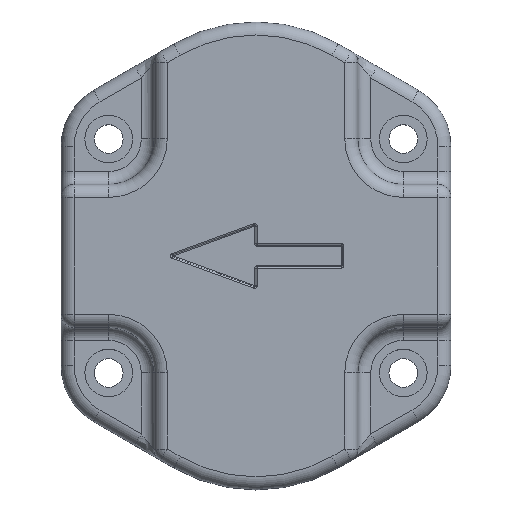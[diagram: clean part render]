
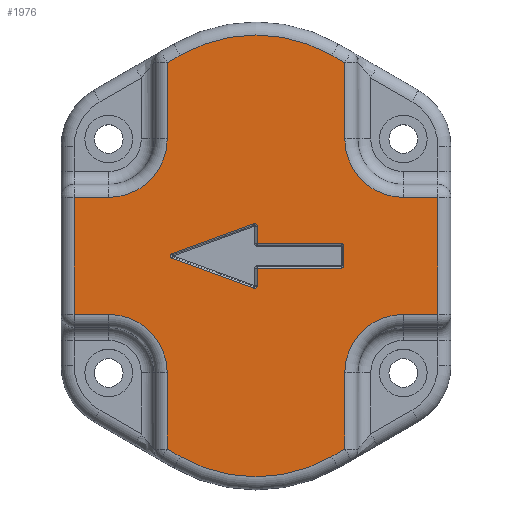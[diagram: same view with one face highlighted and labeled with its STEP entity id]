
A CAD part, top view. The second image highlights one B-rep face of the part: STEP entity #1976.
In plain terms, the highlighted planar face has unit normal (0, 0, 1).
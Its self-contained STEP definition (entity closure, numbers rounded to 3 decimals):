
#27=FACE_BOUND('',#261,.T.);
#42=PLANE('',#2162);
#123=FACE_OUTER_BOUND('',#260,.T.);
#260=EDGE_LOOP('',(#1344,#1345,#1346,#1347,#1348,#1349,#1350,#1351,#1352,
#1353,#1354,#1355,#1356,#1357,#1358,#1359,#1360,#1361,#1362,#1363));
#261=EDGE_LOOP('',(#1364,#1365,#1366,#1367,#1368,#1369,#1370,#1371,#1372,
#1373,#1374,#1375));
#399=LINE('',#3203,#518);
#401=LINE('',#3215,#520);
#403=LINE('',#3236,#522);
#405=LINE('',#3239,#524);
#407=LINE('',#3247,#526);
#409=LINE('',#3259,#528);
#411=LINE('',#3270,#530);
#412=LINE('',#3278,#531);
#413=LINE('',#3280,#532);
#414=LINE('',#3284,#533);
#415=LINE('',#3286,#534);
#416=LINE('',#3290,#535);
#417=LINE('',#3292,#536);
#418=LINE('',#3296,#537);
#419=LINE('',#3298,#538);
#420=LINE('',#3300,#539);
#421=LINE('',#3304,#540);
#422=LINE('',#3306,#541);
#423=LINE('',#3310,#542);
#424=LINE('',#3312,#543);
#425=LINE('',#3315,#544);
#518=VECTOR('',#2448,10.);
#520=VECTOR('',#2462,10.);
#522=VECTOR('',#2486,10.);
#524=VECTOR('',#2490,10.);
#526=VECTOR('',#2498,10.);
#528=VECTOR('',#2512,10.);
#530=VECTOR('',#2526,10.);
#531=VECTOR('',#2537,10.);
#532=VECTOR('',#2538,10.);
#533=VECTOR('',#2541,10.);
#534=VECTOR('',#2542,10.);
#535=VECTOR('',#2545,10.);
#536=VECTOR('',#2546,10.);
#537=VECTOR('',#2549,10.);
#538=VECTOR('',#2550,10.);
#539=VECTOR('',#2551,10.);
#540=VECTOR('',#2554,10.);
#541=VECTOR('',#2555,10.);
#542=VECTOR('',#2558,10.);
#543=VECTOR('',#2559,10.);
#544=VECTOR('',#2562,10.);
#638=CIRCLE('',#2126,0.6);
#642=CIRCLE('',#2132,0.6);
#646=CIRCLE('',#2137,0.6);
#652=CIRCLE('',#2147,0.6);
#656=CIRCLE('',#2153,0.6);
#662=CIRCLE('',#2163,13.5);
#663=CIRCLE('',#2164,35.);
#664=CIRCLE('',#2165,13.5);
#665=CIRCLE('',#2166,13.5);
#666=CIRCLE('',#2167,35.);
#667=CIRCLE('',#2168,13.5);
#812=VERTEX_POINT('',#3196);
#815=VERTEX_POINT('',#3201);
#816=VERTEX_POINT('',#3205);
#818=VERTEX_POINT('',#3211);
#820=VERTEX_POINT('',#3217);
#823=VERTEX_POINT('',#3224);
#824=VERTEX_POINT('',#3226);
#826=VERTEX_POINT('',#3232);
#828=VERTEX_POINT('',#3241);
#831=VERTEX_POINT('',#3249);
#833=VERTEX_POINT('',#3255);
#835=VERTEX_POINT('',#3261);
#838=VERTEX_POINT('',#3276);
#839=VERTEX_POINT('',#3277);
#840=VERTEX_POINT('',#3279);
#841=VERTEX_POINT('',#3281);
#842=VERTEX_POINT('',#3283);
#843=VERTEX_POINT('',#3285);
#844=VERTEX_POINT('',#3287);
#845=VERTEX_POINT('',#3289);
#846=VERTEX_POINT('',#3291);
#847=VERTEX_POINT('',#3293);
#848=VERTEX_POINT('',#3295);
#849=VERTEX_POINT('',#3297);
#850=VERTEX_POINT('',#3299);
#851=VERTEX_POINT('',#3301);
#852=VERTEX_POINT('',#3303);
#853=VERTEX_POINT('',#3305);
#854=VERTEX_POINT('',#3307);
#855=VERTEX_POINT('',#3309);
#856=VERTEX_POINT('',#3311);
#857=VERTEX_POINT('',#3313);
#990=EDGE_CURVE('',#815,#812,#399,.T.);
#991=EDGE_CURVE('',#812,#816,#638,.T.);
#996=EDGE_CURVE('',#816,#818,#401,.T.);
#997=EDGE_CURVE('',#818,#820,#642,.T.);
#1001=EDGE_CURVE('',#823,#824,#646,.T.);
#1006=EDGE_CURVE('',#824,#826,#403,.T.);
#1008=EDGE_CURVE('',#820,#823,#405,.T.);
#1012=EDGE_CURVE('',#826,#828,#407,.T.);
#1013=EDGE_CURVE('',#828,#831,#652,.T.);
#1018=EDGE_CURVE('',#831,#833,#409,.T.);
#1019=EDGE_CURVE('',#833,#835,#656,.T.);
#1024=EDGE_CURVE('',#835,#815,#411,.T.);
#1027=EDGE_CURVE('',#838,#839,#412,.T.);
#1028=EDGE_CURVE('',#840,#838,#413,.T.);
#1029=EDGE_CURVE('',#841,#840,#662,.T.);
#1030=EDGE_CURVE('',#842,#841,#414,.T.);
#1031=EDGE_CURVE('',#843,#842,#415,.T.);
#1032=EDGE_CURVE('',#844,#843,#663,.T.);
#1033=EDGE_CURVE('',#845,#844,#416,.T.);
#1034=EDGE_CURVE('',#846,#845,#417,.T.);
#1035=EDGE_CURVE('',#847,#846,#664,.T.);
#1036=EDGE_CURVE('',#848,#847,#418,.T.);
#1037=EDGE_CURVE('',#849,#848,#419,.T.);
#1038=EDGE_CURVE('',#850,#849,#420,.T.);
#1039=EDGE_CURVE('',#851,#850,#665,.T.);
#1040=EDGE_CURVE('',#852,#851,#421,.T.);
#1041=EDGE_CURVE('',#853,#852,#422,.T.);
#1042=EDGE_CURVE('',#854,#853,#666,.T.);
#1043=EDGE_CURVE('',#855,#854,#423,.T.);
#1044=EDGE_CURVE('',#856,#855,#424,.T.);
#1045=EDGE_CURVE('',#857,#856,#667,.T.);
#1046=EDGE_CURVE('',#839,#857,#425,.T.);
#1344=ORIENTED_EDGE('',*,*,#1027,.F.);
#1345=ORIENTED_EDGE('',*,*,#1028,.F.);
#1346=ORIENTED_EDGE('',*,*,#1029,.F.);
#1347=ORIENTED_EDGE('',*,*,#1030,.F.);
#1348=ORIENTED_EDGE('',*,*,#1031,.F.);
#1349=ORIENTED_EDGE('',*,*,#1032,.F.);
#1350=ORIENTED_EDGE('',*,*,#1033,.F.);
#1351=ORIENTED_EDGE('',*,*,#1034,.F.);
#1352=ORIENTED_EDGE('',*,*,#1035,.F.);
#1353=ORIENTED_EDGE('',*,*,#1036,.F.);
#1354=ORIENTED_EDGE('',*,*,#1037,.F.);
#1355=ORIENTED_EDGE('',*,*,#1038,.F.);
#1356=ORIENTED_EDGE('',*,*,#1039,.F.);
#1357=ORIENTED_EDGE('',*,*,#1040,.F.);
#1358=ORIENTED_EDGE('',*,*,#1041,.F.);
#1359=ORIENTED_EDGE('',*,*,#1042,.F.);
#1360=ORIENTED_EDGE('',*,*,#1043,.F.);
#1361=ORIENTED_EDGE('',*,*,#1044,.F.);
#1362=ORIENTED_EDGE('',*,*,#1045,.F.);
#1363=ORIENTED_EDGE('',*,*,#1046,.F.);
#1364=ORIENTED_EDGE('',*,*,#1001,.F.);
#1365=ORIENTED_EDGE('',*,*,#1008,.F.);
#1366=ORIENTED_EDGE('',*,*,#997,.F.);
#1367=ORIENTED_EDGE('',*,*,#996,.F.);
#1368=ORIENTED_EDGE('',*,*,#991,.F.);
#1369=ORIENTED_EDGE('',*,*,#990,.F.);
#1370=ORIENTED_EDGE('',*,*,#1024,.F.);
#1371=ORIENTED_EDGE('',*,*,#1019,.F.);
#1372=ORIENTED_EDGE('',*,*,#1018,.F.);
#1373=ORIENTED_EDGE('',*,*,#1013,.F.);
#1374=ORIENTED_EDGE('',*,*,#1012,.F.);
#1375=ORIENTED_EDGE('',*,*,#1006,.F.);
#1976=ADVANCED_FACE('',(#123,#27),#42,.T.);
#2126=AXIS2_PLACEMENT_3D('',#3206,#2451,#2452);
#2132=AXIS2_PLACEMENT_3D('',#3218,#2465,#2466);
#2137=AXIS2_PLACEMENT_3D('',#3227,#2475,#2476);
#2147=AXIS2_PLACEMENT_3D('',#3250,#2501,#2502);
#2153=AXIS2_PLACEMENT_3D('',#3262,#2515,#2516);
#2162=AXIS2_PLACEMENT_3D('',#3275,#2535,#2536);
#2163=AXIS2_PLACEMENT_3D('',#3282,#2539,#2540);
#2164=AXIS2_PLACEMENT_3D('',#3288,#2543,#2544);
#2165=AXIS2_PLACEMENT_3D('',#3294,#2547,#2548);
#2166=AXIS2_PLACEMENT_3D('',#3302,#2552,#2553);
#2167=AXIS2_PLACEMENT_3D('',#3308,#2556,#2557);
#2168=AXIS2_PLACEMENT_3D('',#3314,#2560,#2561);
#2448=DIRECTION('',(0.,1.,0.));
#2451=DIRECTION('center_axis',(0.,0.,1.));
#2452=DIRECTION('ref_axis',(0.574,0.819,0.));
#2462=DIRECTION('',(-0.94,-0.342,0.));
#2465=DIRECTION('center_axis',(0.,0.,1.));
#2466=DIRECTION('ref_axis',(-1.,0.,0.));
#2475=DIRECTION('center_axis',(0.,0.,1.));
#2476=DIRECTION('ref_axis',(0.574,-0.819,0.));
#2486=DIRECTION('',(0.,1.,0.));
#2490=DIRECTION('',(0.94,-0.342,0.));
#2498=DIRECTION('',(1.,0.,0.));
#2501=DIRECTION('center_axis',(0.,0.,1.));
#2502=DIRECTION('ref_axis',(0.707,-0.707,0.));
#2512=DIRECTION('',(0.,1.,0.));
#2515=DIRECTION('center_axis',(0.,0.,1.));
#2516=DIRECTION('ref_axis',(0.707,0.707,0.));
#2526=DIRECTION('',(-1.,0.,0.));
#2535=DIRECTION('center_axis',(0.,0.,1.));
#2536=DIRECTION('ref_axis',(1.,0.,0.));
#2537=DIRECTION('',(0.,-1.,0.));
#2538=DIRECTION('',(1.,0.,0.));
#2539=DIRECTION('center_axis',(0.,0.,1.));
#2540=DIRECTION('ref_axis',(-0.707,-0.707,0.));
#2541=DIRECTION('',(0.,-1.,0.));
#2542=DIRECTION('',(0.866,-0.5,0.));
#2543=DIRECTION('center_axis',(0.,0.,-1.));
#2544=DIRECTION('ref_axis',(0.,1.,0.));
#2545=DIRECTION('',(0.866,0.5,0.));
#2546=DIRECTION('',(0.,1.,0.));
#2547=DIRECTION('center_axis',(0.,0.,1.));
#2548=DIRECTION('ref_axis',(0.707,-0.707,0.));
#2549=DIRECTION('',(1.,0.,0.));
#2550=DIRECTION('',(0.,1.,0.));
#2551=DIRECTION('',(-1.,0.,0.));
#2552=DIRECTION('center_axis',(0.,0.,1.));
#2553=DIRECTION('ref_axis',(0.707,0.707,0.));
#2554=DIRECTION('',(0.,1.,0.));
#2555=DIRECTION('',(-0.866,0.5,0.));
#2556=DIRECTION('center_axis',(0.,0.,-1.));
#2557=DIRECTION('ref_axis',(0.,-1.,0.));
#2558=DIRECTION('',(-0.866,-0.5,0.));
#2559=DIRECTION('',(0.,-1.,0.));
#2560=DIRECTION('center_axis',(0.,0.,1.));
#2561=DIRECTION('ref_axis',(-0.707,0.707,0.));
#2562=DIRECTION('',(-1.,0.,0.));
#3196=CARTESIAN_POINT('',(0.3,22.851,21.));
#3201=CARTESIAN_POINT('',(0.3,18.8,21.));
#3203=CARTESIAN_POINT('',(0.3,19.64,21.));
#3205=CARTESIAN_POINT('',(-0.505,23.415,21.));
#3206=CARTESIAN_POINT('Origin',(-0.3,22.851,21.));
#3211=CARTESIAN_POINT('',(-19.328,16.564,21.));
#3215=CARTESIAN_POINT('',(-11.272,19.496,21.));
#3217=CARTESIAN_POINT('',(-19.328,15.436,21.));
#3218=CARTESIAN_POINT('Origin',(-19.123,16.,21.));
#3224=CARTESIAN_POINT('',(-0.505,8.585,21.));
#3226=CARTESIAN_POINT('',(0.3,9.149,21.));
#3227=CARTESIAN_POINT('Origin',(-0.3,9.149,21.));
#3232=CARTESIAN_POINT('',(0.3,13.2,21.));
#3236=CARTESIAN_POINT('',(0.3,14.75,21.));
#3239=CARTESIAN_POINT('',(-1.272,8.864,21.));
#3241=CARTESIAN_POINT('',(19.7,13.2,21.));
#3247=CARTESIAN_POINT('',(10.,13.2,21.));
#3249=CARTESIAN_POINT('',(20.3,13.8,21.));
#3250=CARTESIAN_POINT('Origin',(19.7,13.8,21.));
#3255=CARTESIAN_POINT('',(20.3,18.2,21.));
#3259=CARTESIAN_POINT('',(20.3,17.25,21.));
#3261=CARTESIAN_POINT('',(19.7,18.8,21.));
#3262=CARTESIAN_POINT('Origin',(19.7,18.2,21.));
#3270=CARTESIAN_POINT('',(0.,18.8,21.));
#3275=CARTESIAN_POINT('Origin',(0.,16.,21.));
#3276=CARTESIAN_POINT('',(42.,29.5,21.));
#3277=CARTESIAN_POINT('',(42.,2.5,21.));
#3278=CARTESIAN_POINT('',(42.,-0.949,21.));
#3279=CARTESIAN_POINT('',(34.,29.5,21.));
#3280=CARTESIAN_POINT('',(22.5,29.5,21.));
#3281=CARTESIAN_POINT('',(20.5,43.,21.));
#3282=CARTESIAN_POINT('Origin',(34.,43.,21.));
#3283=CARTESIAN_POINT('',(20.5,60.579,21.));
#3284=CARTESIAN_POINT('',(20.5,29.5,21.));
#3285=CARTESIAN_POINT('',(17.5,62.311,21.));
#3286=CARTESIAN_POINT('',(33.964,52.805,21.));
#3287=CARTESIAN_POINT('',(-17.5,62.311,21.));
#3288=CARTESIAN_POINT('Origin',(0.,32.,21.));
#3289=CARTESIAN_POINT('',(-20.5,60.579,21.));
#3290=CARTESIAN_POINT('',(-20.964,60.311,21.));
#3291=CARTESIAN_POINT('',(-20.5,43.,21.));
#3292=CARTESIAN_POINT('',(-20.5,39.155,21.));
#3293=CARTESIAN_POINT('',(-34.,29.5,21.));
#3294=CARTESIAN_POINT('Origin',(-34.,43.,21.));
#3295=CARTESIAN_POINT('',(-42.,29.5,21.));
#3296=CARTESIAN_POINT('',(-17.,29.5,21.));
#3297=CARTESIAN_POINT('',(-42.,2.5,21.));
#3298=CARTESIAN_POINT('',(-42.,32.949,21.));
#3299=CARTESIAN_POINT('',(-34.,2.5,21.));
#3300=CARTESIAN_POINT('',(-22.5,2.5,21.));
#3301=CARTESIAN_POINT('',(-20.5,-11.,21.));
#3302=CARTESIAN_POINT('Origin',(-34.,-11.,21.));
#3303=CARTESIAN_POINT('',(-20.5,-28.579,21.));
#3304=CARTESIAN_POINT('',(-20.5,2.5,21.));
#3305=CARTESIAN_POINT('',(-17.5,-30.311,21.));
#3306=CARTESIAN_POINT('',(-33.964,-20.805,21.));
#3307=CARTESIAN_POINT('',(17.5,-30.311,21.));
#3308=CARTESIAN_POINT('Origin',(0.,0.,21.));
#3309=CARTESIAN_POINT('',(20.5,-28.579,21.));
#3310=CARTESIAN_POINT('',(20.964,-28.311,21.));
#3311=CARTESIAN_POINT('',(20.5,-11.,21.));
#3312=CARTESIAN_POINT('',(20.5,-7.155,21.));
#3313=CARTESIAN_POINT('',(34.,2.5,21.));
#3314=CARTESIAN_POINT('Origin',(34.,-11.,21.));
#3315=CARTESIAN_POINT('',(17.,2.5,21.));
